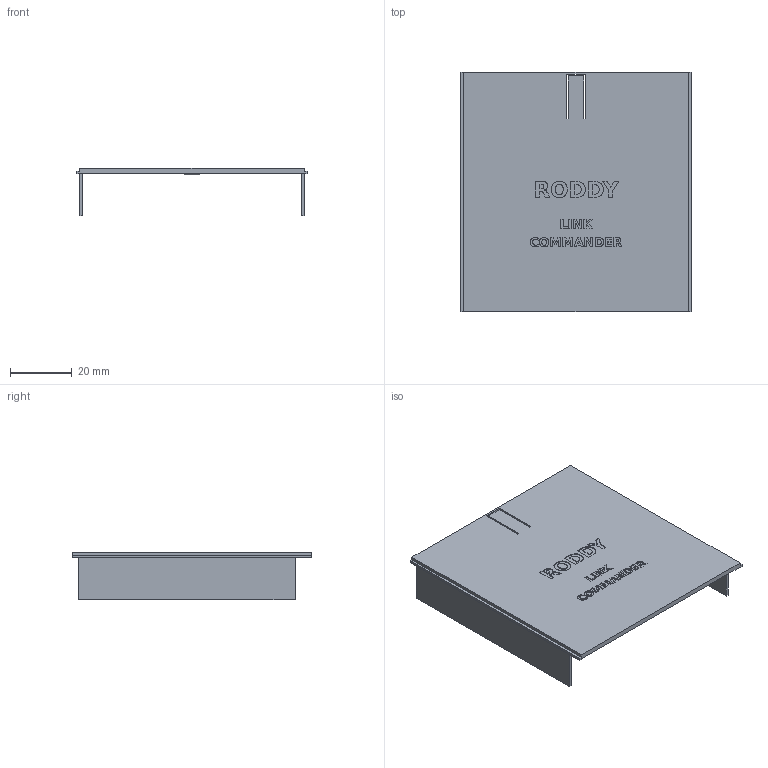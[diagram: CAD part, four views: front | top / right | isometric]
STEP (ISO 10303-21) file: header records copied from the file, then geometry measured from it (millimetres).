
FILE_DESCRIPTION(('Open CASCADE Model'),'2;1');
FILE_NAME('Open CASCADE Shape Model','2026-11-04T10:48:45',('Author'),( 'Open CASCADE'),'Open CASCADE STEP processor 7.9','Open CASCADE 7.9' ,'Unknown');
FILE_SCHEMA(('AUTOMOTIVE_DESIGN { 1 0 10303 214 1 1 1 1 }'));
Length unit declared in the file: millimetre
Products named in the file (1): Open CASCADE STEP translator 7.9 11
Bounding box: 74.4 x 77.3 x 15.3 mm (x, y, z)
Volume: 10563.2 mm3; surface area: 16084.1 mm2
Topology: 1 solids, 1 shells, 310 faces, 840 edges, 560 vertices
Faces by surface type: plane 202, extrusion 108
Entity records: 23292 total; most frequent: CARTESIAN_POINT 7921, DIRECTION 2176, VECTOR 1770, ORIENTED_EDGE 1680, PCURVE 1680, DEFINITIONAL_REPRESENTATION 1680, LINE 1662, B_SPLINE_CURVE_WITH_KNOTS 966
